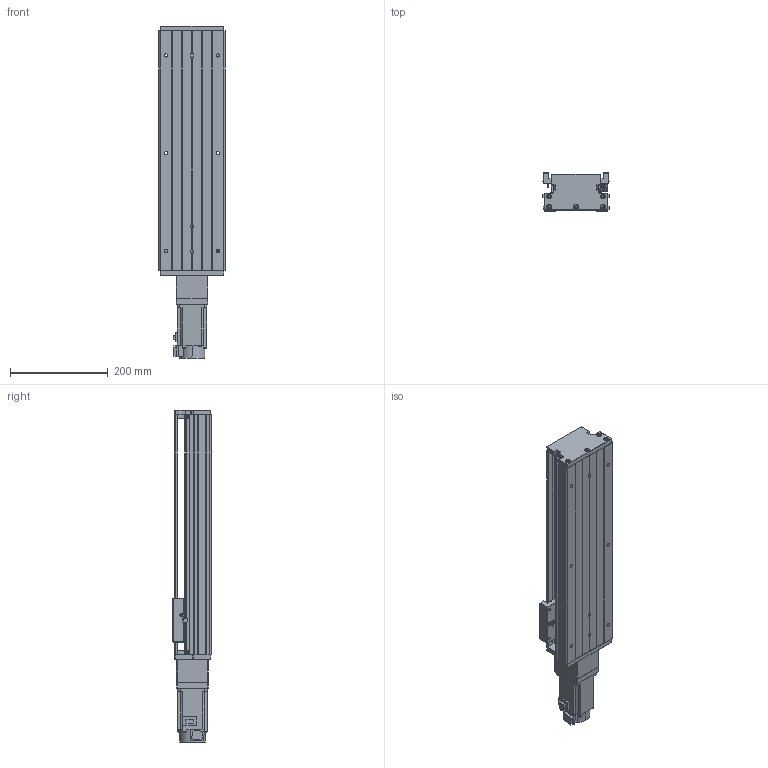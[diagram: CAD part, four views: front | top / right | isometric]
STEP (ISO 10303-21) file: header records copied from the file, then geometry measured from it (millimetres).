
FILE_DESCRIPTION (( 'STEP AP203' ), '1' );
FILE_NAME ('KTH130-350-BC-M40-C4.step', '2023-06-30T03:53:54', ( '微软用户' ), ( '微软中国' ), 'SwSTEP 2.0', 'SolidWorks 2020', '' );
FILE_SCHEMA (( 'CONFIG_CONTROL_DESIGN' ));
Length unit declared in the file: millimetre
Products named in the file (19): GBT 70.2-M3¡Á5_M3¡Á6; CTHA86-006-1_M40; GTH14-001_350; EE_SX911P_R; CTHA60-017; CTHA86-013; KTH130-002_KTH130-002; CTHA60-016; CTHA86-027-1; KTH130-004; GBT 70.1-M3℅5; HG-KN43J-S100; KTH130-005; GBT77-2000 M3×3; KTH130-350-BC-M40-C4; GB1155-6X6; す晦芛蹟隊 M3℅5; GBT70.1 M5℅16; GBT 70.3-M3℅8
Assembly tree (52 placements, depth 2):
  KTH130-350-BC-M40-C4
    GTH14-001_350
    KTH130-002_KTH130-002
    KTH130-004
    KTH130-005
    GB1155-6X6  x2
    GBT70.1 M5℅16  x10
    GBT 70.2-M3¡Á5_M3¡Á6  x4
    CTHA60-017  x3
    EE_SX911P_R  x3
    CTHA60-016  x2
    GBT 70.1-M3℅5  x6
    GBT77-2000 M3×3  x6
    す晦芛蹟隊 M3℅5  x2
    GBT 70.3-M3℅8  x6
    CTHA86-006-1_M40
    CTHA86-013
    CTHA86-027-1
    HG-KN43J-S100
Bounding box: 135 x 78 x 678.7 mm (x, y, z)
Volume: 3445347.1 mm3; surface area: 547340.3 mm2
Topology: 55 solids, 55 shells, 2162 faces, 5230 edges, 3262 vertices
Faces by surface type: plane 1190, cylinder 584, cone 280, torus 96, sphere 12
Entity records: 39266 total; most frequent: CARTESIAN_POINT 8376, DIRECTION 5805, ORIENTED_EDGE 5744, EDGE_CURVE 2872, AXIS2_PLACEMENT_3D 1965, LINE 1875, VECTOR 1875, VERTEX_POINT 1834
